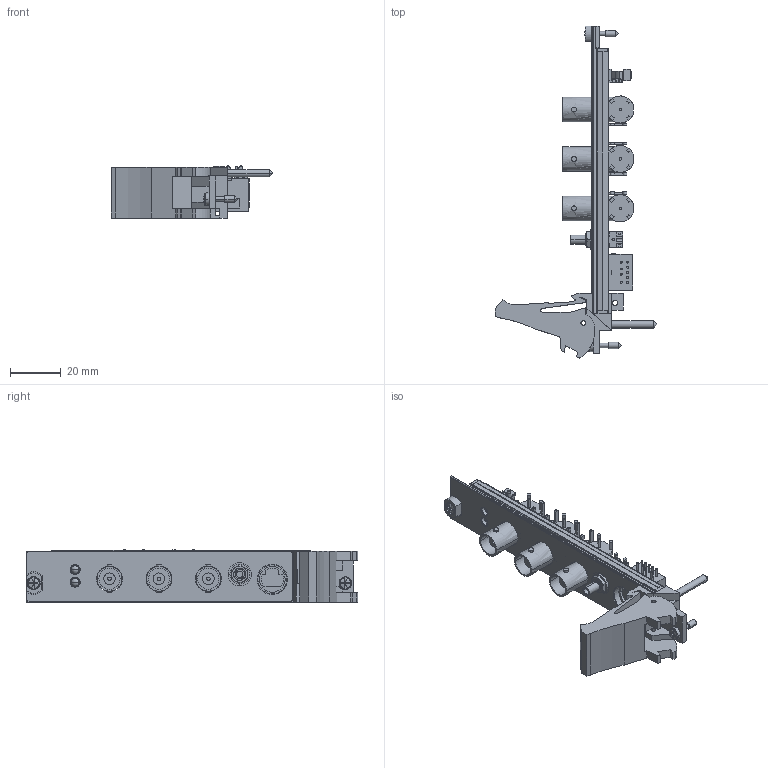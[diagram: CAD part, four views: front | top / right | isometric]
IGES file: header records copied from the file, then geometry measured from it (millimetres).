
Start section:  PTC IGES file: cu_pxi-5114.igs
Global section: file name: cu_pxi-5114.igs; native system: Pro/ENGINEER by Parametric Technology Corporation; preprocessor: 2006080; author: jjorden; organization: Unknown; date: 091113.125309; units: inch
Bounding box: 63.53 x 130.51 x 20.52 mm (x, y, z)
Surface area: 23212 mm2 (no closed solid volume)
Topology: 0 solids, 0 shells, 754 faces, 3868 edges, 3860 vertices
Faces by surface type: bspline 469, revolution 285
